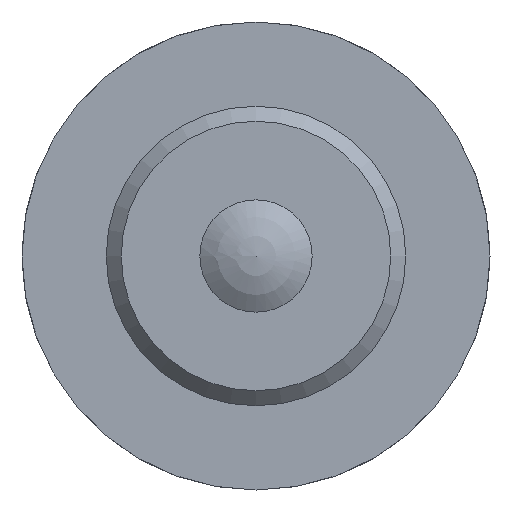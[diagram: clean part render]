
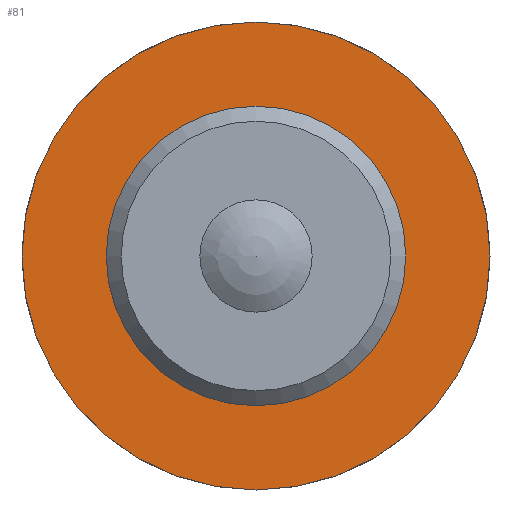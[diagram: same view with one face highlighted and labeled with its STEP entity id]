
A CAD part, front view. The second image highlights one B-rep face of the part: STEP entity #81.
In plain terms, the highlighted planar face has unit normal (0, -1, 0).
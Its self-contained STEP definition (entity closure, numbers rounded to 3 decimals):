
#81 = ADVANCED_FACE( '', ( #123, #124 ), #125, .F. );
#123 = FACE_BOUND( '', #194, .T. );
#124 = FACE_OUTER_BOUND( '', #195, .T. );
#125 = PLANE( '', #196 );
#194 = EDGE_LOOP( '', ( #281 ) );
#195 = EDGE_LOOP( '', ( #282 ) );
#196 = AXIS2_PLACEMENT_3D( '', #283, #284, #285 );
#281 = ORIENTED_EDGE( '', *, *, #465, .F. );
#282 = ORIENTED_EDGE( '', *, *, #466, .T. );
#283 = CARTESIAN_POINT( '', ( 12.5, 0., 0. ) );
#284 = DIRECTION( '', ( 0., 1., 0. ) );
#285 = DIRECTION( '', ( 0., 0., 1. ) );
#465 = EDGE_CURVE( '', #532, #532, #533, .T. );
#466 = EDGE_CURVE( '', #534, #534, #535, .T. );
#532 = VERTEX_POINT( '', #643 );
#533 = CIRCLE( '', #644, 8. );
#534 = VERTEX_POINT( '', #645 );
#535 = CIRCLE( '', #646, 12.5 );
#643 = CARTESIAN_POINT( '', ( 0., 0., -8. ) );
#644 = AXIS2_PLACEMENT_3D( '', #803, #804, #805 );
#645 = CARTESIAN_POINT( '', ( 0., 0., -12.5 ) );
#646 = AXIS2_PLACEMENT_3D( '', #806, #807, #808 );
#803 = CARTESIAN_POINT( '', ( 0., 0., 0. ) );
#804 = DIRECTION( '', ( 0., -1., 0. ) );
#805 = DIRECTION( '', ( 0., 0., -1. ) );
#806 = CARTESIAN_POINT( '', ( 0., 0., 0. ) );
#807 = DIRECTION( '', ( 0., -1., 0. ) );
#808 = DIRECTION( '', ( 0., 0., -1. ) );
